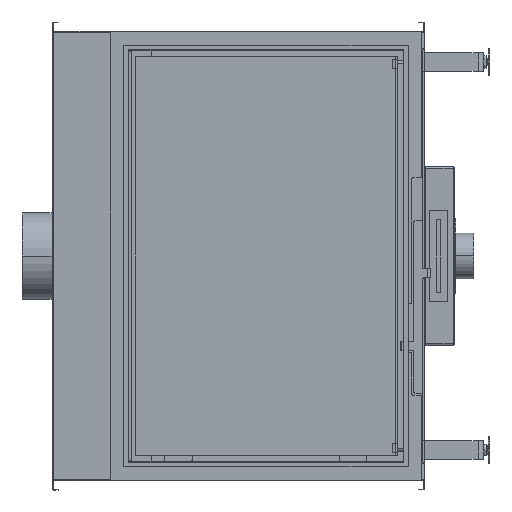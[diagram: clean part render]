
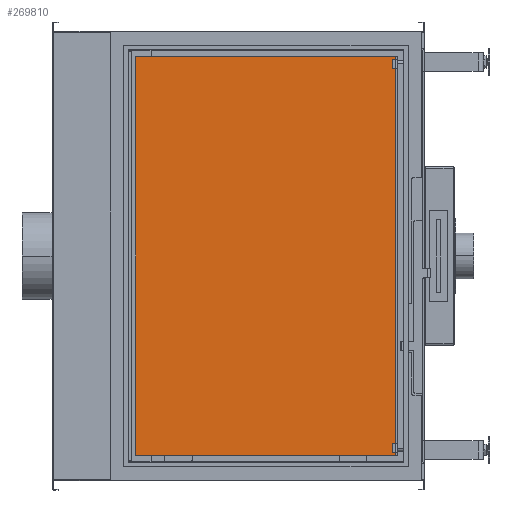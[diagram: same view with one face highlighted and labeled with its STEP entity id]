
A CAD part, left-side view. The second image highlights one B-rep face of the part: STEP entity #269810.
In plain terms, the highlighted planar face has unit normal (-1, 0, 0) as drawn and (1, 0, 0) by its records, which use the part's own axes.
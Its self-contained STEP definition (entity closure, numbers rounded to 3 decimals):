
#269420=CARTESIAN_POINT('',(-14.636,-349.,
547.054));
#269430=DIRECTION('',(1.,0.,0.));
#269440=DIRECTION('',(0.,0.,-1.));
#269450=AXIS2_PLACEMENT_3D('',#269420,#269430,#269440);
#269460=PLANE('',#269450);
#269470=CARTESIAN_POINT('',(-14.636,-274.,
882.554));
#269480=DIRECTION('',(-0.,1.,0.));
#269490=VECTOR('',#269480,1.);
#269500=LINE('',#269470,#269490);
#269510=CARTESIAN_POINT('',(-14.636,-558.,
882.554));
#269520=VERTEX_POINT('',#269510);
#269530=CARTESIAN_POINT('',(-14.636,10.,
882.554));
#269540=VERTEX_POINT('',#269530);
#269550=EDGE_CURVE('',#269520,#269540,#269500,.T.);
#269560=ORIENTED_EDGE('',*,*,#269550,.F.);
#269570=CARTESIAN_POINT('',(-14.636,10.,
97.054));
#269580=DIRECTION('',(0.,0.,1.));
#269590=VECTOR('',#269580,1.);
#269600=LINE('',#269570,#269590);
#269610=CARTESIAN_POINT('',(-14.636,10.,
11.554));
#269620=VERTEX_POINT('',#269610);
#269630=EDGE_CURVE('',#269620,#269540,#269600,.T.);
#269640=ORIENTED_EDGE('',*,*,#269630,.T.);
#269650=CARTESIAN_POINT('',(-14.636,-274.,
11.554));
#269660=DIRECTION('',(-0.,1.,0.));
#269670=VECTOR('',#269660,1.);
#269680=LINE('',#269650,#269670);
#269690=CARTESIAN_POINT('',(-14.636,-558.,
11.554));
#269700=VERTEX_POINT('',#269690);
#269710=EDGE_CURVE('',#269700,#269620,#269680,.T.);
#269720=ORIENTED_EDGE('',*,*,#269710,.T.);
#269730=CARTESIAN_POINT('',(-14.636,-558.,
97.054));
#269740=DIRECTION('',(0.,0.,-1.));
#269750=VECTOR('',#269740,1.);
#269760=LINE('',#269730,#269750);
#269770=EDGE_CURVE('',#269520,#269700,#269760,.T.);
#269780=ORIENTED_EDGE('',*,*,#269770,.T.);
#269790=EDGE_LOOP('',(#269780,#269720,#269640,#269560));
#269800=FACE_OUTER_BOUND('',#269790,.T.);
#269810=ADVANCED_FACE('',(#269800),#269460,.T.);
